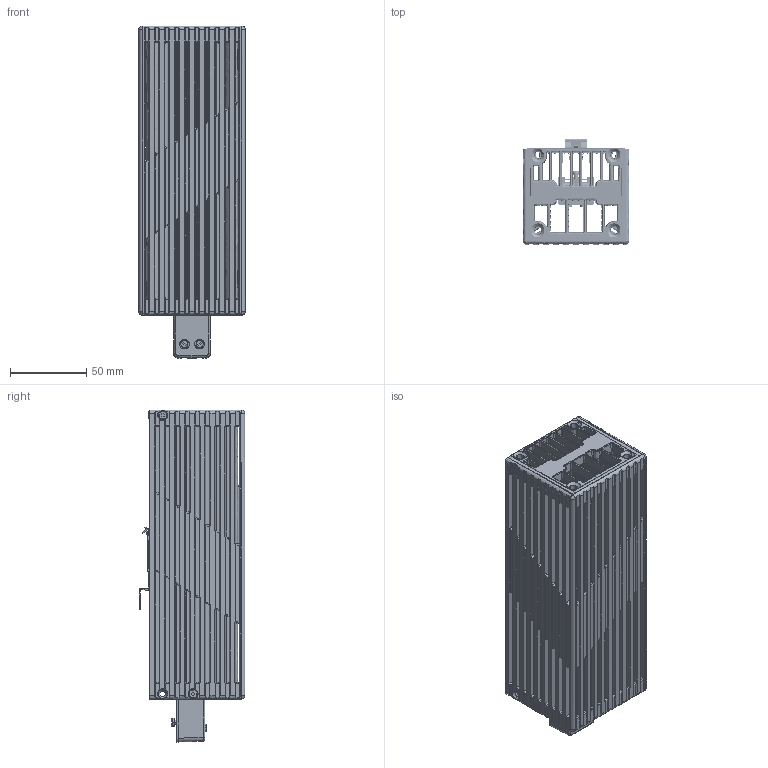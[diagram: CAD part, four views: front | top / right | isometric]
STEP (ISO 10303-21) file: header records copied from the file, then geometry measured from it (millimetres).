
FILE_DESCRIPTION(/* description */ (''),/* implementation_level */ '2;1');
FILE_NAME(/* name */ 'STHT 150',/* time_stamp */ '2016-02-23T11:22:27+01:00',/* author */ (''),/* organization */ (''),/* preprocessor_version */ 'ST-DEVELOPER v10',/* originating_system */ '',/* authorisation */ '');
FILE_SCHEMA (('CONFIG_CONTROL_DESIGN'));
Products named in the file (1): 1
Bounding box: 70 x 69.35 x 218.13 mm (x, y, z)
Volume: 284612.8 mm3; surface area: 301394.7 mm2
Topology: 19 solids, 407 shells, 2650 faces, 7596 edges, 5304 vertices
Faces by surface type: bspline 1974, plane 676
Entity records: 97523 total; most frequent: CARTESIAN_POINT 54196, ORIENTED_EDGE 14362, EDGE_CURVE 7592, VERTEX_POINT 5304, B_SPLINE_CURVE_WITH_KNOTS 4637, EDGE_LOOP 2770, ADVANCED_FACE 2650, FACE_OUTER_BOUND 2650
